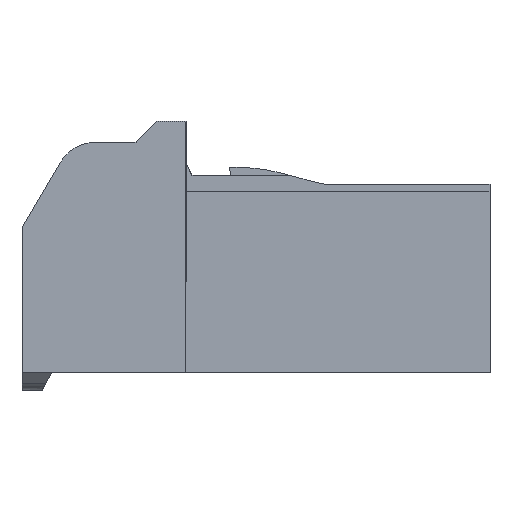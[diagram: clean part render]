
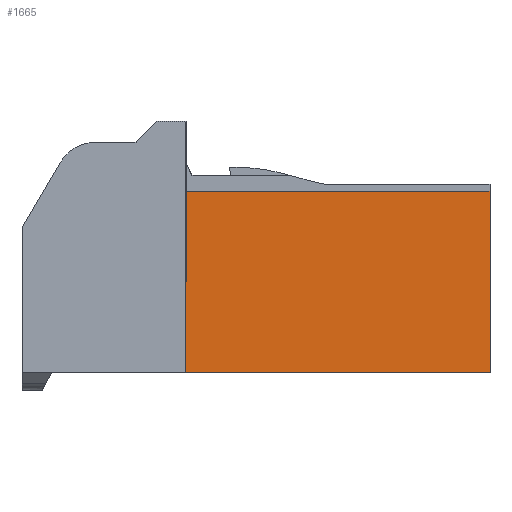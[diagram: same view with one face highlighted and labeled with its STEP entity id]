
A CAD part, front view. The second image highlights one B-rep face of the part: STEP entity #1665.
In plain terms, the highlighted planar face has unit normal (0, -1, 0).
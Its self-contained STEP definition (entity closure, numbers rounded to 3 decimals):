
#1645=AXIS2_PLACEMENT_3D('Plane Axis2P3D',#1642,#1643,#1644) ;
#1288=CARTESIAN_POINT('Vertex',(0.,-3.05,5.775)) ;
#1291=CARTESIAN_POINT('Line Origine',(0.,-3.05,1.25)) ;
#1295=CARTESIAN_POINT('Vertex',(0.,-3.05,-3.275)) ;
#1555=CARTESIAN_POINT('Line Origine',(-7.6,-3.05,-3.275)) ;
#1559=CARTESIAN_POINT('Vertex',(-15.2,-3.05,-3.275)) ;
#1642=CARTESIAN_POINT('Axis2P3D Location',(0.,-3.05,5.5)) ;
#1647=CARTESIAN_POINT('Line Origine',(-15.2,-3.05,1.25)) ;
#1651=CARTESIAN_POINT('Vertex',(-15.2,-3.05,5.775)) ;
#1654=CARTESIAN_POINT('Line Origine',(-7.6,-3.05,5.775)) ;
#1292=DIRECTION('Vector Direction',(0.,0.,1.)) ;
#1556=DIRECTION('Vector Direction',(1.,0.,0.)) ;
#1643=DIRECTION('Axis2P3D Direction',(0.,-1.,0.)) ;
#1644=DIRECTION('Axis2P3D XDirection',(0.,0.,-1.)) ;
#1648=DIRECTION('Vector Direction',(0.,0.,-1.)) ;
#1655=DIRECTION('Vector Direction',(-1.,0.,0.)) ;
#1293=VECTOR('Line Direction',#1292,1.) ;
#1557=VECTOR('Line Direction',#1556,1.) ;
#1649=VECTOR('Line Direction',#1648,1.) ;
#1656=VECTOR('Line Direction',#1655,1.) ;
#1660=ORIENTED_EDGE('',*,*,#1653,.T.) ;
#1661=ORIENTED_EDGE('',*,*,#1561,.T.) ;
#1662=ORIENTED_EDGE('',*,*,#1297,.T.) ;
#1663=ORIENTED_EDGE('',*,*,#1658,.F.) ;
#1665=ADVANCED_FACE('\X2\FF8AFF9FFF70FF82\X0\ \X2\FF8EFF9EFF83FF9EFF68FF70\X0\',(#1664),#1646,.T.) ;
#1297=EDGE_CURVE('',#1296,#1289,#1294,.T.) ;
#1561=EDGE_CURVE('',#1560,#1296,#1558,.T.) ;
#1653=EDGE_CURVE('',#1652,#1560,#1650,.T.) ;
#1658=EDGE_CURVE('',#1652,#1289,#1657,.F.) ;
#1659=EDGE_LOOP('',(#1660,#1661,#1662,#1663)) ;
#1664=FACE_OUTER_BOUND('',#1659,.T.) ;
#1294=LINE('Line',#1291,#1293) ;
#1558=LINE('Line',#1555,#1557) ;
#1650=LINE('Line',#1647,#1649) ;
#1657=LINE('Line',#1654,#1656) ;
#1646=PLANE('',#1645) ;
#1289=VERTEX_POINT('',#1288) ;
#1296=VERTEX_POINT('',#1295) ;
#1560=VERTEX_POINT('',#1559) ;
#1652=VERTEX_POINT('',#1651) ;
